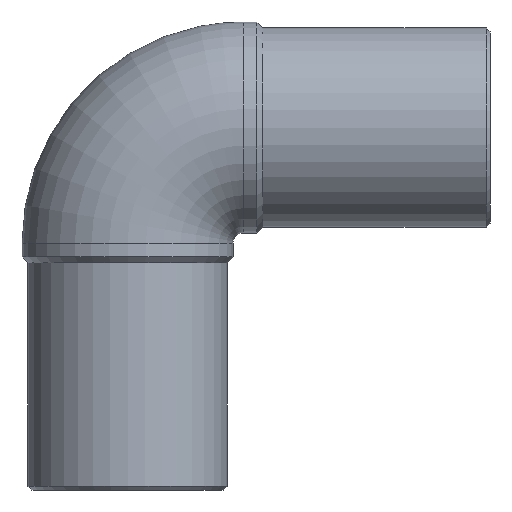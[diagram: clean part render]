
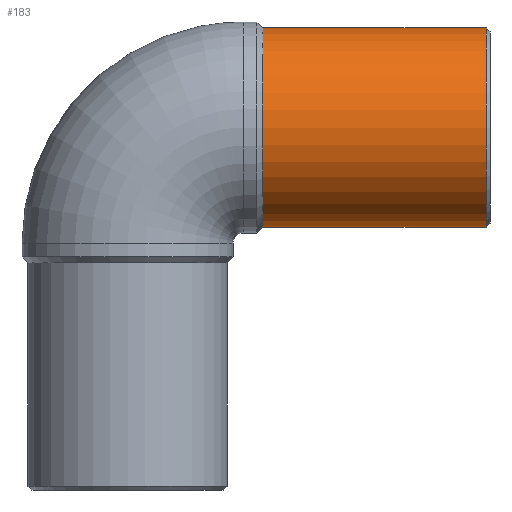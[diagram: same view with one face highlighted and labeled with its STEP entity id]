
A CAD part, front view. The second image highlights one B-rep face of the part: STEP entity #183.
In plain terms, the highlighted cylindrical face has radius 25 mm (diameter 50 mm), a full revolution.
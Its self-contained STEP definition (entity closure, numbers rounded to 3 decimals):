
#29=CYLINDRICAL_SURFACE('',#212,25.);
#37=ORIENTED_EDGE('',*,*,#75,.F.);
#38=ORIENTED_EDGE('',*,*,#74,.F.);
#74=EDGE_CURVE('',#93,#93,#111,.T.);
#75=EDGE_CURVE('',#94,#94,#112,.F.);
#93=VERTEX_POINT('',#303);
#94=VERTEX_POINT('',#306);
#111=CIRCLE('',#211,25.);
#112=CIRCLE('',#213,25.);
#126=EDGE_LOOP('',(#37));
#127=EDGE_LOOP('',(#38));
#153=FACE_BOUND('',#126,.T.);
#154=FACE_BOUND('',#127,.T.);
#183=ADVANCED_FACE('',(#153,#154),#29,.T.);
#211=AXIS2_PLACEMENT_3D('',#302,#244,#245);
#212=AXIS2_PLACEMENT_3D('',#304,#246,#247);
#213=AXIS2_PLACEMENT_3D('',#305,#248,#249);
#244=DIRECTION('',(-1.,0.,0.));
#245=DIRECTION('',(0.,0.,1.));
#246=DIRECTION('',(1.,0.,0.));
#247=DIRECTION('',(0.,0.,1.));
#248=DIRECTION('',(-1.,0.,0.));
#249=DIRECTION('',(0.,0.,1.));
#302=CARTESIAN_POINT('',(34.,0.,91.));
#303=CARTESIAN_POINT('',(34.,0.,116.));
#304=CARTESIAN_POINT('',(91.,0.,91.));
#305=CARTESIAN_POINT('',(90.,0.,91.));
#306=CARTESIAN_POINT('',(90.,0.,116.));
